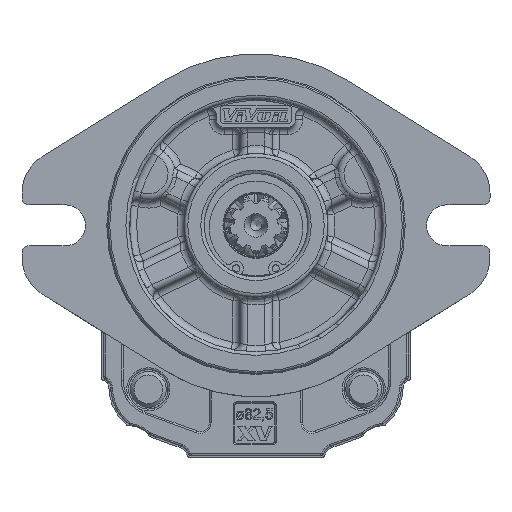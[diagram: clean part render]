
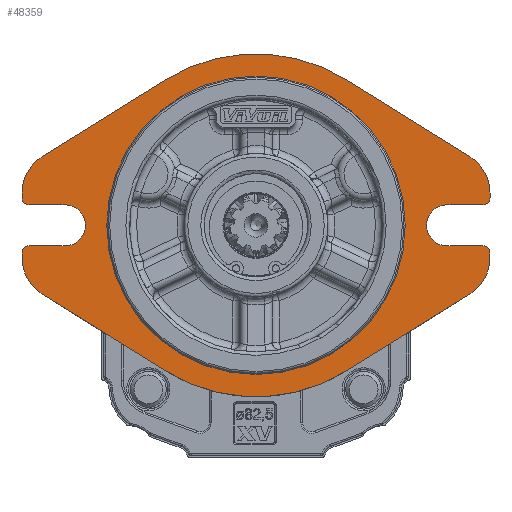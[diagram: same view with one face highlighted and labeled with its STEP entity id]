
A CAD part, front view. The second image highlights one B-rep face of the part: STEP entity #48359.
In plain terms, the highlighted planar face has unit normal (0, -1, 0).
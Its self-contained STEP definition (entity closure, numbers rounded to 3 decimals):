
#2813=LINE('',#67855,#4904);
#2817=LINE('',#67867,#4908);
#2818=LINE('',#67869,#4909);
#2825=LINE('',#67888,#4916);
#2826=LINE('',#67890,#4917);
#2833=LINE('',#67919,#4924);
#2834=LINE('',#67924,#4925);
#2835=LINE('',#67928,#4926);
#2836=LINE('',#67931,#4927);
#2837=LINE('',#67935,#4928);
#2838=LINE('',#67939,#4929);
#2839=LINE('',#67943,#4930);
#4904=VECTOR('',#55792,1000.);
#4908=VECTOR('',#55804,1000.);
#4909=VECTOR('',#55807,1000.);
#4916=VECTOR('',#55822,1000.);
#4917=VECTOR('',#55825,1000.);
#4924=VECTOR('',#55854,1000.);
#4925=VECTOR('',#55857,1000.);
#4926=VECTOR('',#55860,1000.);
#4927=VECTOR('',#55865,1000.);
#4928=VECTOR('',#55868,1000.);
#4929=VECTOR('',#55871,1000.);
#4930=VECTOR('',#55874,1000.);
#6543=PLANE('',#50929);
#10197=ORIENTED_EDGE('',*,*,#19536,.T.);
#10198=ORIENTED_EDGE('',*,*,#19537,.F.);
#10199=ORIENTED_EDGE('',*,*,#19538,.T.);
#10200=ORIENTED_EDGE('',*,*,#19539,.F.);
#10201=ORIENTED_EDGE('',*,*,#19540,.F.);
#10202=ORIENTED_EDGE('',*,*,#19541,.F.);
#10203=ORIENTED_EDGE('',*,*,#19457,.F.);
#10204=ORIENTED_EDGE('',*,*,#19506,.F.);
#10205=ORIENTED_EDGE('',*,*,#19509,.F.);
#10206=ORIENTED_EDGE('',*,*,#19512,.F.);
#10207=ORIENTED_EDGE('',*,*,#19542,.T.);
#10208=ORIENTED_EDGE('',*,*,#19513,.F.);
#10209=ORIENTED_EDGE('',*,*,#19519,.F.);
#10210=ORIENTED_EDGE('',*,*,#19522,.F.);
#10211=ORIENTED_EDGE('',*,*,#19543,.T.);
#10212=ORIENTED_EDGE('',*,*,#19523,.F.);
#10213=ORIENTED_EDGE('',*,*,#19535,.F.);
#10214=ORIENTED_EDGE('',*,*,#19544,.F.);
#10215=ORIENTED_EDGE('',*,*,#19545,.F.);
#10216=ORIENTED_EDGE('',*,*,#19546,.F.);
#10217=ORIENTED_EDGE('',*,*,#19547,.F.);
#10218=ORIENTED_EDGE('',*,*,#19548,.F.);
#10219=ORIENTED_EDGE('',*,*,#19549,.T.);
#10220=ORIENTED_EDGE('',*,*,#19550,.F.);
#10221=ORIENTED_EDGE('',*,*,#19551,.F.);
#19457=EDGE_CURVE('',#24273,#24274,#27064,.T.);
#19506=EDGE_CURVE('',#24316,#24273,#2813,.T.);
#19509=EDGE_CURVE('',#24318,#24316,#27092,.T.);
#19512=EDGE_CURVE('',#24320,#24318,#2817,.T.);
#19513=EDGE_CURVE('',#24321,#24322,#2818,.T.);
#19519=EDGE_CURVE('',#24326,#24321,#27094,.T.);
#19522=EDGE_CURVE('',#24328,#24326,#2825,.T.);
#19523=EDGE_CURVE('',#24329,#24330,#2826,.T.);
#19535=EDGE_CURVE('',#24338,#24329,#27100,.T.);
#19536=EDGE_CURVE('',#24339,#24339,#27101,.T.);
#19537=EDGE_CURVE('',#24340,#24341,#2833,.T.);
#19538=EDGE_CURVE('',#24340,#24342,#27102,.F.);
#19539=EDGE_CURVE('',#24343,#24342,#2834,.T.);
#19540=EDGE_CURVE('',#24344,#24343,#27103,.T.);
#19541=EDGE_CURVE('',#24274,#24344,#2835,.T.);
#19542=EDGE_CURVE('',#24320,#24322,#27104,.F.);
#19543=EDGE_CURVE('',#24328,#24330,#27105,.F.);
#19544=EDGE_CURVE('',#24345,#24338,#2836,.T.);
#19545=EDGE_CURVE('',#24346,#24345,#27106,.T.);
#19546=EDGE_CURVE('',#24347,#24346,#2837,.T.);
#19547=EDGE_CURVE('',#24348,#24347,#27107,.T.);
#19548=EDGE_CURVE('',#24349,#24348,#2838,.T.);
#19549=EDGE_CURVE('',#24349,#24350,#27108,.F.);
#19550=EDGE_CURVE('',#24351,#24350,#2839,.T.);
#19551=EDGE_CURVE('',#24341,#24351,#27109,.T.);
#24273=VERTEX_POINT('',#67755);
#24274=VERTEX_POINT('',#67757);
#24316=VERTEX_POINT('',#67854);
#24318=VERTEX_POINT('',#67860);
#24320=VERTEX_POINT('',#67866);
#24321=VERTEX_POINT('',#67870);
#24322=VERTEX_POINT('',#67871);
#24326=VERTEX_POINT('',#67881);
#24328=VERTEX_POINT('',#67887);
#24329=VERTEX_POINT('',#67891);
#24330=VERTEX_POINT('',#67892);
#24338=VERTEX_POINT('',#67914);
#24339=VERTEX_POINT('',#67918);
#24340=VERTEX_POINT('',#67920);
#24341=VERTEX_POINT('',#67921);
#24342=VERTEX_POINT('',#67923);
#24343=VERTEX_POINT('',#67925);
#24344=VERTEX_POINT('',#67927);
#24345=VERTEX_POINT('',#67932);
#24346=VERTEX_POINT('',#67934);
#24347=VERTEX_POINT('',#67936);
#24348=VERTEX_POINT('',#67938);
#24349=VERTEX_POINT('',#67940);
#24350=VERTEX_POINT('',#67942);
#24351=VERTEX_POINT('',#67944);
#27064=CIRCLE('',#50878,47.75);
#27092=CIRCLE('',#50912,12.);
#27094=CIRCLE('',#50917,5.7);
#27100=CIRCLE('',#50928,12.);
#27101=CIRCLE('',#50930,40.982);
#27102=CIRCLE('',#50931,2.);
#27103=CIRCLE('',#50932,12.);
#27104=CIRCLE('',#50933,2.);
#27105=CIRCLE('',#50934,2.);
#27106=CIRCLE('',#50935,47.75);
#27107=CIRCLE('',#50936,12.);
#27108=CIRCLE('',#50937,2.);
#27109=CIRCLE('',#50938,5.7);
#28906=EDGE_LOOP('',(#10197));
#28907=EDGE_LOOP('',(#10198,#10199,#10200,#10201,#10202,#10203,#10204,#10205,
#10206,#10207,#10208,#10209,#10210,#10211,#10212,#10213,#10214,#10215,#10216,
#10217,#10218,#10219,#10220,#10221));
#31302=FACE_BOUND('',#28906,.T.);
#31303=FACE_BOUND('',#28907,.T.);
#48359=ADVANCED_FACE('',(#31302,#31303),#6543,.F.);
#50878=AXIS2_PLACEMENT_3D('',#67756,#55708,#55709);
#50912=AXIS2_PLACEMENT_3D('',#67861,#55798,#55799);
#50917=AXIS2_PLACEMENT_3D('',#67882,#55816,#55817);
#50928=AXIS2_PLACEMENT_3D('',#67915,#55848,#55849);
#50929=AXIS2_PLACEMENT_3D('',#67916,#55850,#55851);
#50930=AXIS2_PLACEMENT_3D('',#67917,#55852,#55853);
#50931=AXIS2_PLACEMENT_3D('',#67922,#55855,#55856);
#50932=AXIS2_PLACEMENT_3D('',#67926,#55858,#55859);
#50933=AXIS2_PLACEMENT_3D('',#67929,#55861,#55862);
#50934=AXIS2_PLACEMENT_3D('',#67930,#55863,#55864);
#50935=AXIS2_PLACEMENT_3D('',#67933,#55866,#55867);
#50936=AXIS2_PLACEMENT_3D('',#67937,#55869,#55870);
#50937=AXIS2_PLACEMENT_3D('',#67941,#55872,#55873);
#50938=AXIS2_PLACEMENT_3D('',#67945,#55875,#55876);
#55708=DIRECTION('',(0.,1.,0.));
#55709=DIRECTION('',(-1.,0.,0.));
#55792=DIRECTION('',(-0.849,0.,-0.528));
#55798=DIRECTION('',(0.,1.,0.));
#55799=DIRECTION('',(-1.,0.,0.));
#55804=DIRECTION('',(0.,0.,-1.));
#55807=DIRECTION('',(1.,0.,0.));
#55816=DIRECTION('',(0.,-1.,0.));
#55817=DIRECTION('',(1.,0.,0.));
#55822=DIRECTION('',(-1.,0.,0.));
#55825=DIRECTION('',(0.,0.,-1.));
#55848=DIRECTION('',(0.,1.,0.));
#55849=DIRECTION('',(-1.,0.,0.));
#55850=DIRECTION('',(0.,1.,0.));
#55851=DIRECTION('',(0.,0.,-1.));
#55852=DIRECTION('',(0.,1.,0.));
#55853=DIRECTION('',(-1.,0.,0.));
#55854=DIRECTION('',(1.,0.,0.));
#55855=DIRECTION('',(0.,1.,0.));
#55856=DIRECTION('',(0.,0.,-1.));
#55857=DIRECTION('',(0.,0.,1.));
#55858=DIRECTION('',(0.,1.,0.));
#55859=DIRECTION('',(1.,0.,0.));
#55860=DIRECTION('',(-0.849,0.,0.528));
#55861=DIRECTION('',(0.,1.,0.));
#55862=DIRECTION('',(0.,0.,-1.));
#55863=DIRECTION('',(0.,1.,0.));
#55864=DIRECTION('',(0.,0.,-1.));
#55865=DIRECTION('',(0.849,0.,-0.528));
#55866=DIRECTION('',(0.,1.,0.));
#55867=DIRECTION('',(-1.,0.,0.));
#55868=DIRECTION('',(0.849,0.,0.528));
#55869=DIRECTION('',(0.,1.,0.));
#55870=DIRECTION('',(1.,0.,0.));
#55871=DIRECTION('',(0.,0.,1.));
#55872=DIRECTION('',(0.,1.,0.));
#55873=DIRECTION('',(0.,0.,-1.));
#55874=DIRECTION('',(-1.,0.,0.));
#55875=DIRECTION('',(0.,-1.,0.));
#55876=DIRECTION('',(-1.,0.,0.));
#67755=CARTESIAN_POINT('',(25.235,-19.,-24.837));
#67756=CARTESIAN_POINT('',(0.,-19.,15.7));
#67757=CARTESIAN_POINT('',(-25.235,-19.,-24.837));
#67854=CARTESIAN_POINT('',(59.532,-19.,-3.487));
#67855=CARTESIAN_POINT('',(59.532,-19.,-3.487));
#67860=CARTESIAN_POINT('',(65.19,-19.,6.7));
#67861=CARTESIAN_POINT('',(53.19,-19.,6.7));
#67866=CARTESIAN_POINT('',(65.19,-19.,8.));
#67867=CARTESIAN_POINT('',(65.19,-19.,6.7));
#67869=CARTESIAN_POINT('',(53.19,-19.,10.));
#67870=CARTESIAN_POINT('',(53.19,-19.,10.));
#67871=CARTESIAN_POINT('',(63.19,-19.,10.));
#67881=CARTESIAN_POINT('',(53.19,-19.,21.4));
#67882=CARTESIAN_POINT('',(53.19,-19.,15.7));
#67887=CARTESIAN_POINT('',(63.19,-19.,21.4));
#67888=CARTESIAN_POINT('',(53.19,-19.,21.4));
#67890=CARTESIAN_POINT('',(65.19,-19.,24.7));
#67891=CARTESIAN_POINT('',(65.19,-19.,24.7));
#67892=CARTESIAN_POINT('',(65.19,-19.,23.4));
#67914=CARTESIAN_POINT('',(59.532,-19.,34.887));
#67915=CARTESIAN_POINT('',(53.19,-19.,24.7));
#67916=CARTESIAN_POINT('',(0.,-19.,15.7));
#67917=CARTESIAN_POINT('',(0.,-19.,15.7));
#67918=CARTESIAN_POINT('',(-40.982,-19.,15.7));
#67919=CARTESIAN_POINT('',(-53.19,-19.,10.));
#67920=CARTESIAN_POINT('',(-63.19,-19.,10.));
#67921=CARTESIAN_POINT('',(-53.19,-19.,10.));
#67922=CARTESIAN_POINT('',(-63.19,-19.,8.));
#67923=CARTESIAN_POINT('',(-65.19,-19.,8.));
#67924=CARTESIAN_POINT('',(-65.19,-19.,6.7));
#67925=CARTESIAN_POINT('',(-65.19,-19.,6.7));
#67926=CARTESIAN_POINT('',(-53.19,-19.,6.7));
#67927=CARTESIAN_POINT('',(-59.532,-19.,-3.487));
#67928=CARTESIAN_POINT('',(-59.532,-19.,-3.487));
#67929=CARTESIAN_POINT('',(63.19,-19.,8.));
#67930=CARTESIAN_POINT('',(63.19,-19.,23.4));
#67931=CARTESIAN_POINT('',(25.235,-19.,56.237));
#67932=CARTESIAN_POINT('',(25.235,-19.,56.237));
#67933=CARTESIAN_POINT('',(0.,-19.,15.7));
#67934=CARTESIAN_POINT('',(-25.235,-19.,56.237));
#67935=CARTESIAN_POINT('',(-25.235,-19.,56.237));
#67936=CARTESIAN_POINT('',(-59.532,-19.,34.887));
#67937=CARTESIAN_POINT('',(-53.19,-19.,24.7));
#67938=CARTESIAN_POINT('',(-65.19,-19.,24.7));
#67939=CARTESIAN_POINT('',(-65.19,-19.,24.7));
#67940=CARTESIAN_POINT('',(-65.19,-19.,23.4));
#67941=CARTESIAN_POINT('',(-63.19,-19.,23.4));
#67942=CARTESIAN_POINT('',(-63.19,-19.,21.4));
#67943=CARTESIAN_POINT('',(-53.19,-19.,21.4));
#67944=CARTESIAN_POINT('',(-53.19,-19.,21.4));
#67945=CARTESIAN_POINT('',(-53.19,-19.,15.7));
